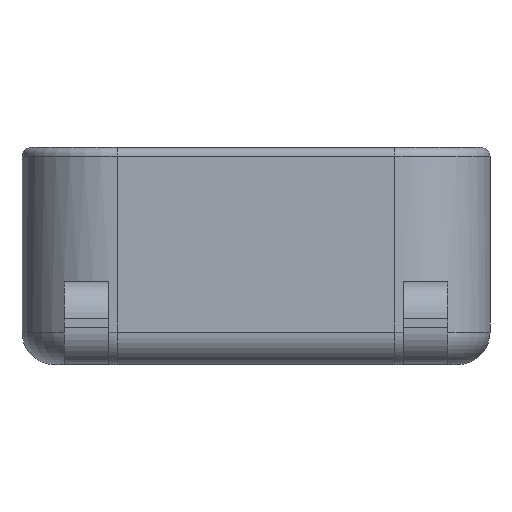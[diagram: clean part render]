
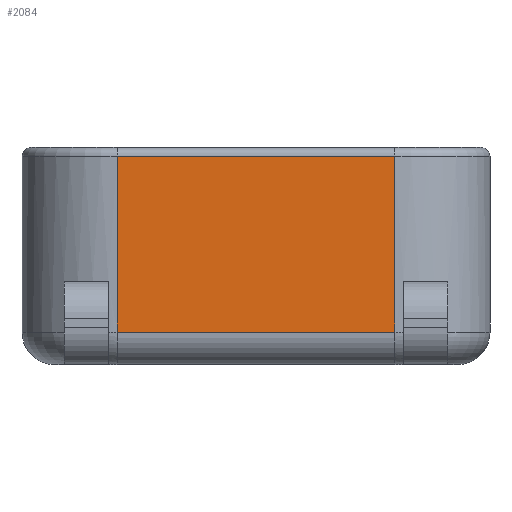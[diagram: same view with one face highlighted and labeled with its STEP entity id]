
A CAD part, left-side view. The second image highlights one B-rep face of the part: STEP entity #2084.
In plain terms, the highlighted planar face has unit normal (-1, 0, 0).
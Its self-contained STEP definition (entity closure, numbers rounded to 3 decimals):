
#66 = CYLINDRICAL_SURFACE('',#67,6.45);
#67 = AXIS2_PLACEMENT_3D('',#68,#69,#70);
#68 = CARTESIAN_POINT('',(3.4,3.4,-2.2));
#69 = DIRECTION('',(0.,0.,1.));
#70 = DIRECTION('',(0.,-1.,0.));
#1605 = CYLINDRICAL_SURFACE('',#1606,0.6);
#1606 = AXIS2_PLACEMENT_3D('',#1607,#1608,#1609);
#1607 = CARTESIAN_POINT('',(-2.45,22.2,11.9));
#1608 = DIRECTION('',(0.,-1.,0.));
#1609 = DIRECTION('',(-1.,-0.,0.));
#1968 = VERTEX_POINT('',#1969);
#1969 = CARTESIAN_POINT('',(-3.05,3.4,11.9));
#2036 = VERTEX_POINT('',#2037);
#2037 = CARTESIAN_POINT('',(-3.05,22.2,11.9));
#2059 = EDGE_CURVE('',#2036,#1968,#2060,.T.);
#2060 = SURFACE_CURVE('',#2061,(#2065,#2072),.PCURVE_S1.);
#2061 = LINE('',#2062,#2063);
#2062 = CARTESIAN_POINT('',(-3.05,22.2,11.9));
#2063 = VECTOR('',#2064,1.);
#2064 = DIRECTION('',(0.,-1.,0.));
#2065 = PCURVE('',#1605,#2066);
#2066 = DEFINITIONAL_REPRESENTATION('',(#2067),#2071);
#2067 = LINE('',#2068,#2069);
#2068 = CARTESIAN_POINT('',(-0.,0.));
#2069 = VECTOR('',#2070,1.);
#2070 = DIRECTION('',(-0.,1.));
#2071 = ( GEOMETRIC_REPRESENTATION_CONTEXT(2) 
PARAMETRIC_REPRESENTATION_CONTEXT() REPRESENTATION_CONTEXT('2D SPACE',''
  ) );
#2072 = PCURVE('',#2073,#2078);
#2073 = PLANE('',#2074);
#2074 = AXIS2_PLACEMENT_3D('',#2075,#2076,#2077);
#2075 = CARTESIAN_POINT('',(-3.05,28.65,-2.2));
#2076 = DIRECTION('',(1.,0.,-0.));
#2077 = DIRECTION('',(0.,-1.,0.));
#2078 = DEFINITIONAL_REPRESENTATION('',(#2079),#2083);
#2079 = LINE('',#2080,#2081);
#2080 = CARTESIAN_POINT('',(6.45,-14.1));
#2081 = VECTOR('',#2082,1.);
#2082 = DIRECTION('',(1.,0.));
#2083 = ( GEOMETRIC_REPRESENTATION_CONTEXT(2) 
PARAMETRIC_REPRESENTATION_CONTEXT() REPRESENTATION_CONTEXT('2D SPACE',''
  ) );
#2084 = ADVANCED_FACE('',(#2085),#2073,.F.);
#2085 = FACE_BOUND('',#2086,.F.);
#2086 = EDGE_LOOP('',(#2087,#2115,#2116,#2139));
#2087 = ORIENTED_EDGE('',*,*,#2088,.T.);
#2088 = EDGE_CURVE('',#2089,#2036,#2091,.T.);
#2089 = VERTEX_POINT('',#2090);
#2090 = CARTESIAN_POINT('',(-3.05,22.2,0.));
#2091 = SURFACE_CURVE('',#2092,(#2096,#2103),.PCURVE_S1.);
#2092 = LINE('',#2093,#2094);
#2093 = CARTESIAN_POINT('',(-3.05,22.2,-2.2));
#2094 = VECTOR('',#2095,1.);
#2095 = DIRECTION('',(0.,0.,1.));
#2096 = PCURVE('',#2073,#2097);
#2097 = DEFINITIONAL_REPRESENTATION('',(#2098),#2102);
#2098 = LINE('',#2099,#2100);
#2099 = CARTESIAN_POINT('',(6.45,0.));
#2100 = VECTOR('',#2101,1.);
#2101 = DIRECTION('',(0.,-1.));
#2102 = ( GEOMETRIC_REPRESENTATION_CONTEXT(2) 
PARAMETRIC_REPRESENTATION_CONTEXT() REPRESENTATION_CONTEXT('2D SPACE',''
  ) );
#2103 = PCURVE('',#2104,#2109);
#2104 = CYLINDRICAL_SURFACE('',#2105,6.45);
#2105 = AXIS2_PLACEMENT_3D('',#2106,#2107,#2108);
#2106 = CARTESIAN_POINT('',(3.4,22.2,-2.2));
#2107 = DIRECTION('',(0.,0.,1.));
#2108 = DIRECTION('',(-0.,1.,0.));
#2109 = DEFINITIONAL_REPRESENTATION('',(#2110),#2114);
#2110 = LINE('',#2111,#2112);
#2111 = CARTESIAN_POINT('',(1.571,0.));
#2112 = VECTOR('',#2113,1.);
#2113 = DIRECTION('',(0.,1.));
#2114 = ( GEOMETRIC_REPRESENTATION_CONTEXT(2) 
PARAMETRIC_REPRESENTATION_CONTEXT() REPRESENTATION_CONTEXT('2D SPACE',''
  ) );
#2115 = ORIENTED_EDGE('',*,*,#2059,.T.);
#2116 = ORIENTED_EDGE('',*,*,#2117,.F.);
#2117 = EDGE_CURVE('',#2118,#1968,#2120,.T.);
#2118 = VERTEX_POINT('',#2119);
#2119 = CARTESIAN_POINT('',(-3.05,3.4,0.));
#2120 = SURFACE_CURVE('',#2121,(#2125,#2132),.PCURVE_S1.);
#2121 = LINE('',#2122,#2123);
#2122 = CARTESIAN_POINT('',(-3.05,3.4,-2.2));
#2123 = VECTOR('',#2124,1.);
#2124 = DIRECTION('',(0.,0.,1.));
#2125 = PCURVE('',#2073,#2126);
#2126 = DEFINITIONAL_REPRESENTATION('',(#2127),#2131);
#2127 = LINE('',#2128,#2129);
#2128 = CARTESIAN_POINT('',(25.25,0.));
#2129 = VECTOR('',#2130,1.);
#2130 = DIRECTION('',(0.,-1.));
#2131 = ( GEOMETRIC_REPRESENTATION_CONTEXT(2) 
PARAMETRIC_REPRESENTATION_CONTEXT() REPRESENTATION_CONTEXT('2D SPACE',''
  ) );
#2132 = PCURVE('',#66,#2133);
#2133 = DEFINITIONAL_REPRESENTATION('',(#2134),#2138);
#2134 = LINE('',#2135,#2136);
#2135 = CARTESIAN_POINT('',(-1.571,0.));
#2136 = VECTOR('',#2137,1.);
#2137 = DIRECTION('',(-0.,1.));
#2138 = ( GEOMETRIC_REPRESENTATION_CONTEXT(2) 
PARAMETRIC_REPRESENTATION_CONTEXT() REPRESENTATION_CONTEXT('2D SPACE',''
  ) );
#2139 = ORIENTED_EDGE('',*,*,#2140,.F.);
#2140 = EDGE_CURVE('',#2089,#2118,#2141,.T.);
#2141 = SURFACE_CURVE('',#2142,(#2146,#2153),.PCURVE_S1.);
#2142 = LINE('',#2143,#2144);
#2143 = CARTESIAN_POINT('',(-3.05,22.2,0.));
#2144 = VECTOR('',#2145,1.);
#2145 = DIRECTION('',(0.,-1.,0.));
#2146 = PCURVE('',#2073,#2147);
#2147 = DEFINITIONAL_REPRESENTATION('',(#2148),#2152);
#2148 = LINE('',#2149,#2150);
#2149 = CARTESIAN_POINT('',(6.45,-2.2));
#2150 = VECTOR('',#2151,1.);
#2151 = DIRECTION('',(1.,0.));
#2152 = ( GEOMETRIC_REPRESENTATION_CONTEXT(2) 
PARAMETRIC_REPRESENTATION_CONTEXT() REPRESENTATION_CONTEXT('2D SPACE',''
  ) );
#2153 = PCURVE('',#2154,#2159);
#2154 = CYLINDRICAL_SURFACE('',#2155,2.2);
#2155 = AXIS2_PLACEMENT_3D('',#2156,#2157,#2158);
#2156 = CARTESIAN_POINT('',(-0.85,22.2,0.));
#2157 = DIRECTION('',(0.,-1.,0.));
#2158 = DIRECTION('',(-1.,-0.,0.));
#2159 = DEFINITIONAL_REPRESENTATION('',(#2160),#2164);
#2160 = LINE('',#2161,#2162);
#2161 = CARTESIAN_POINT('',(0.,0.));
#2162 = VECTOR('',#2163,1.);
#2163 = DIRECTION('',(0.,1.));
#2164 = ( GEOMETRIC_REPRESENTATION_CONTEXT(2) 
PARAMETRIC_REPRESENTATION_CONTEXT() REPRESENTATION_CONTEXT('2D SPACE',''
  ) );
